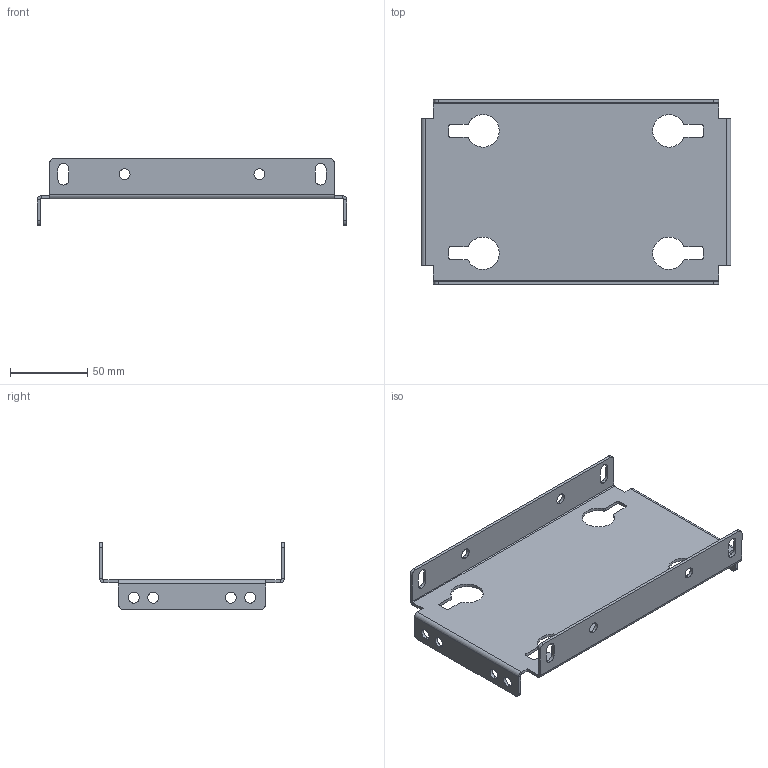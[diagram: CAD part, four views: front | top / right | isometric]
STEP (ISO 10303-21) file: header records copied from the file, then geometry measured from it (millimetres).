
FILE_DESCRIPTION (( 'STEP AP203' ), '1' );
FILE_NAME ('R5PPS1503.STEP', '2021-12-20T06:17:08', ( '' ), ( '' ), 'SwSTEP 2.0', 'SolidWorks 2020', '' );
FILE_SCHEMA (( 'CONFIG_CONTROL_DESIGN' ));
Length unit declared in the file: millimetre
Products named in the file (1): R5PPS1503
Bounding box: 200 x 119 x 43 mm (x, y, z)
Volume: 64974.6 mm3; surface area: 68077.5 mm2
Topology: 1 solids, 1 shells, 132 faces, 358 edges, 228 vertices
Faces by surface type: cylinder 74, plane 58
Entity records: 4331 total; most frequent: DIRECTION 772, CARTESIAN_POINT 719, ORIENTED_EDGE 716, EDGE_CURVE 358, AXIS2_PLACEMENT_3D 281, VERTEX_POINT 228, LINE 210, VECTOR 210
